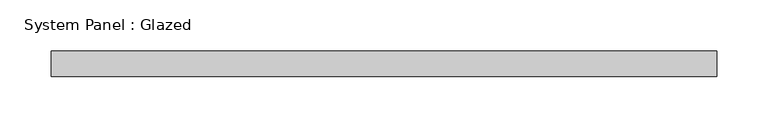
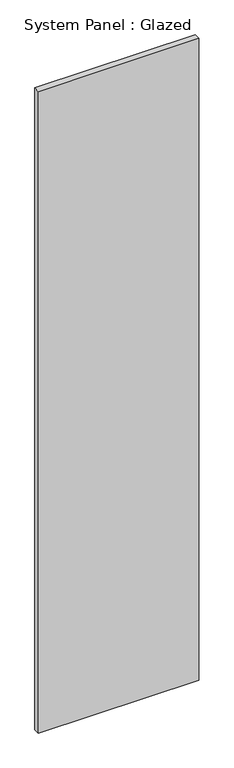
"""IFC4 building model written with IfcOpenShell, lengths in millimetres: plate geometry, System Panel : Glazed."""

from ifc_helpers import new_model, si_unit, origin, origin_with_axes, place, context, project, spatial, polyline, outline, extrude, source, transform, mapped, element, save


def system_panel_glazed_59a07159(model_context):
    return source(origin(), model_context, "Body", "SweptSolid", [
        extrude(outline(polyline([(325.0, 24.5), (-325.0, 24.5), (-325.0, 49.5), (325.0, 49.5), (325.0, 24.5)])), origin_with_axes(), (0.0, 0.0, 1.0), 2750.0),
    ])


if __name__ == "__main__":
    model = new_model("IFC4")
    model_context = context("Model", 3, world=origin())
    ifc_project = project(units=[si_unit("LENGTHUNIT", "METRE", prefix="MILLI")], contexts=[model_context])
    site = spatial("IfcSite", under=ifc_project)
    building = spatial("IfcBuilding", under=site)
    placement = place(None, origin())
    system_panel_glazed_shape = system_panel_glazed_59a07159(model_context)
    element("IfcPlate", 1, ObjectType="System Panel : Glazed", at=placement, inside=building, context=model_context, shape_type="MappedRepresentation", body=[
        mapped(system_panel_glazed_shape, transform((0.0, 0.0, 0.0), x_axis=(1.0, 0.0, 0.0), y_axis=(0.0, 1.0, 0.0), z_axis=(0.0, 0.0, 1.0))),
    ])
    save(model, "model.ifc")
